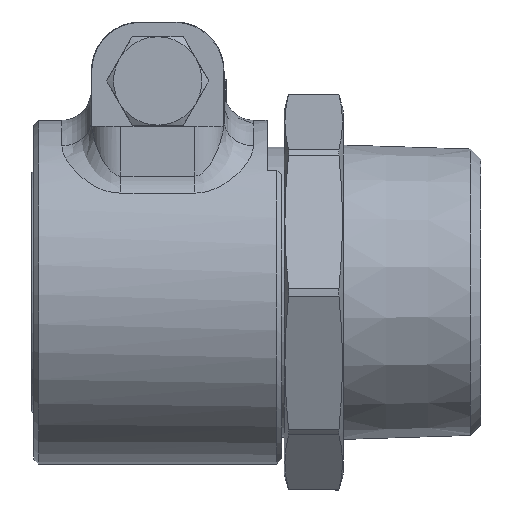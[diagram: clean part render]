
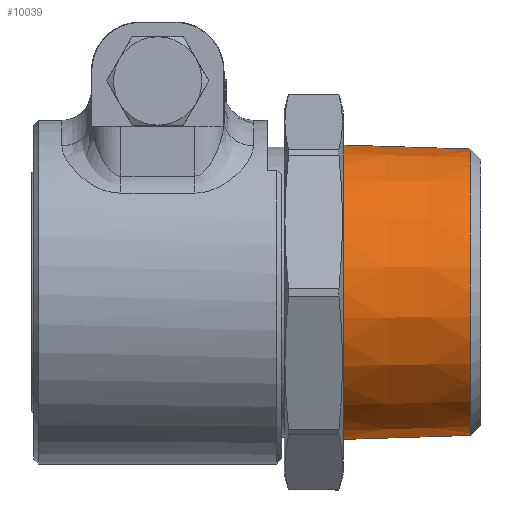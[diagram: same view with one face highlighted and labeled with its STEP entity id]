
A CAD part, left-side view. The second image highlights one B-rep face of the part: STEP entity #10039.
In plain terms, the highlighted conical face has half-angle 1.783 degrees and reference radius 29.077 mm.
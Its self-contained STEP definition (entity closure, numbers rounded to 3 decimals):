
#970 = VECTOR ( 'NONE', #3112, 1000. ) ;
#972 = VECTOR ( 'NONE', #3107, 1000. ) ;
#2619 = CARTESIAN_POINT ( 'NONE',  ( 0., 2.108, 0. ) ) ;
#2621 = DIRECTION ( 'NONE',  ( 0., -1., 0. ) ) ;
#2623 = DIRECTION ( 'NONE',  ( 0., 0., 1. ) ) ;
#2627 = CARTESIAN_POINT ( 'NONE',  ( 0., 28., 0. ) ) ;
#2629 = DIRECTION ( 'NONE',  ( 0., -1., 0. ) ) ;
#2631 = DIRECTION ( 'NONE',  ( 0., 0., -1. ) ) ;
#2675 = FACE_OUTER_BOUND ( 'NONE', #5169, .T. ) ;
#3096 = LINE ( 'NONE', #3097, #972 ) ;
#3097 = CARTESIAN_POINT ( 'NONE',  ( 0., 0., 29.077 ) ) ;
#3106 = CARTESIAN_POINT ( 'NONE',  ( 0., 0., -29.077 ) ) ;
#3107 = DIRECTION ( 'NONE',  ( 0., 1., 0.031 ) ) ;
#3108 = LINE ( 'NONE', #3106, #970 ) ;
#3112 = DIRECTION ( 'NONE',  ( 0., 1., -0.031 ) ) ;
#3831 = VERTEX_POINT ( 'NONE', #4505 ) ;
#3874 = VERTEX_POINT ( 'NONE', #4548 ) ;
#3936 = VERTEX_POINT ( 'NONE', #4610 ) ;
#3953 = VERTEX_POINT ( 'NONE', #4627 ) ;
#4505 = CARTESIAN_POINT ( 'NONE',  ( 0., 28., -29.948 ) ) ;
#4548 = CARTESIAN_POINT ( 'NONE',  ( 0., 2.108, -29.142 ) ) ;
#4610 = CARTESIAN_POINT ( 'NONE',  ( 0., 28., 29.948 ) ) ;
#4627 = CARTESIAN_POINT ( 'NONE',  ( 0., 2.108, 29.142 ) ) ;
#5169 = EDGE_LOOP ( 'NONE', ( #6639, #6640, #6641, #6642 ) ) ;
#6639 = ORIENTED_EDGE ( 'NONE', *, *, #6833, .F. ) ;
#6640 = ORIENTED_EDGE ( 'NONE', *, *, #9800, .F. ) ;
#6641 = ORIENTED_EDGE ( 'NONE', *, *, #6831, .T. ) ;
#6642 = ORIENTED_EDGE ( 'NONE', *, *, #9801, .T. ) ;
#6831 = EDGE_CURVE ( 'NONE', #3953, #3936, #3096, .T. ) ;
#6833 = EDGE_CURVE ( 'NONE', #3874, #3831, #3108, .T. ) ;
#8665 = CONICAL_SURFACE ( 'NONE', #8666, 29.077, 0.031 ) ;
#8666 = AXIS2_PLACEMENT_3D ( 'NONE', #10044, #10045, #10046 ) ;
#9800 = EDGE_CURVE ( 'NONE', #3953, #3874, #11070, .T. ) ;
#9801 = EDGE_CURVE ( 'NONE', #3936, #3831, #11072, .T. ) ;
#10039 = ADVANCED_FACE ( 'NONE', ( #2675 ), #8665, .T. ) ;
#10044 = CARTESIAN_POINT ( 'NONE',  ( 0., 0., 0. ) ) ;
#10045 = DIRECTION ( 'NONE',  ( 0., 1., 0. ) ) ;
#10046 = DIRECTION ( 'NONE',  ( 0., 0., 1. ) ) ;
#11070 = CIRCLE ( 'NONE', #11073, 29.142 ) ;
#11072 = CIRCLE ( 'NONE', #11075, 29.948 ) ;
#11073 = AXIS2_PLACEMENT_3D ( 'NONE', #2619, #2621, #2623 ) ;
#11075 = AXIS2_PLACEMENT_3D ( 'NONE', #2627, #2629, #2631 ) ;
